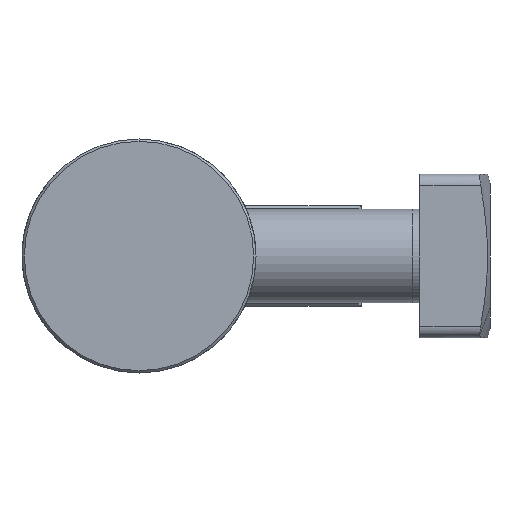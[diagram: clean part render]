
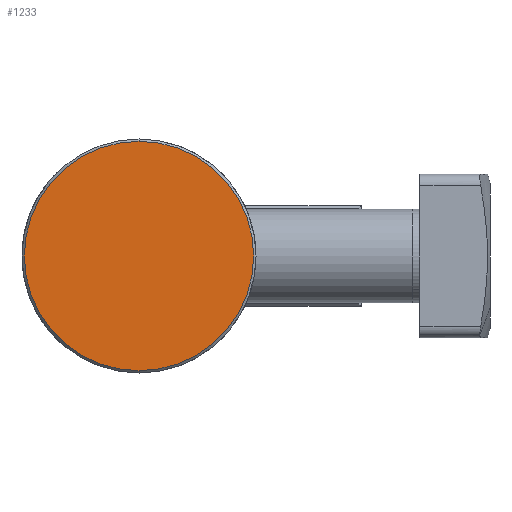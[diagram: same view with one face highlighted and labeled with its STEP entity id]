
A CAD part, front view. The second image highlights one B-rep face of the part: STEP entity #1233.
In plain terms, the highlighted planar face has unit normal (0, -1, 0).
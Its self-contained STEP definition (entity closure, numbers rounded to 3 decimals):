
#143 = AXIS2_PLACEMENT_3D ( 'NONE', #712, #2900, #946 ) ;
#364 = CARTESIAN_POINT ( 'NONE',  ( -9.5, -8.5, -9.9 ) ) ;
#418 = AXIS2_PLACEMENT_3D ( 'NONE', #2614, #603, #1352 ) ;
#581 = AXIS2_PLACEMENT_3D ( 'NONE', #3183, #2204, #1439 ) ;
#603 = DIRECTION ( 'NONE',  ( 0., -1., 0. ) ) ;
#712 = CARTESIAN_POINT ( 'NONE',  ( -9.5, -8.5, -5. ) ) ;
#946 = DIRECTION ( 'NONE',  ( 0., 0., 1. ) ) ;
#1057 = CARTESIAN_POINT ( 'NONE',  ( -9.5, -8.5, -0.1 ) ) ;
#1233 = ADVANCED_FACE ( 'NONE', ( #2468 ), #3175, .F. ) ;
#1352 = DIRECTION ( 'NONE',  ( 0., 0., 1. ) ) ;
#1403 = VERTEX_POINT ( 'NONE', #1057 ) ;
#1439 = DIRECTION ( 'NONE',  ( 0., 0., 1. ) ) ;
#1501 = EDGE_CURVE ( 'NONE', #1591, #1403, #2547, .T. ) ;
#1591 = VERTEX_POINT ( 'NONE', #364 ) ;
#1609 = EDGE_CURVE ( 'NONE', #1403, #1591, #1978, .T. ) ;
#1713 = ORIENTED_EDGE ( 'NONE', *, *, #1501, .T. ) ;
#1900 = EDGE_LOOP ( 'NONE', ( #3153, #1713 ) ) ;
#1978 = CIRCLE ( 'NONE', #581, 4.9 ) ;
#2204 = DIRECTION ( 'NONE',  ( 0., -1., 0. ) ) ;
#2468 = FACE_OUTER_BOUND ( 'NONE', #1900, .T. ) ;
#2547 = CIRCLE ( 'NONE', #418, 4.9 ) ;
#2614 = CARTESIAN_POINT ( 'NONE',  ( -9.5, -8.5, -5. ) ) ;
#2900 = DIRECTION ( 'NONE',  ( 0., 1., 0. ) ) ;
#3153 = ORIENTED_EDGE ( 'NONE', *, *, #1609, .T. ) ;
#3175 = PLANE ( 'NONE',  #143 ) ;
#3183 = CARTESIAN_POINT ( 'NONE',  ( -9.5, -8.5, -5. ) ) ;
